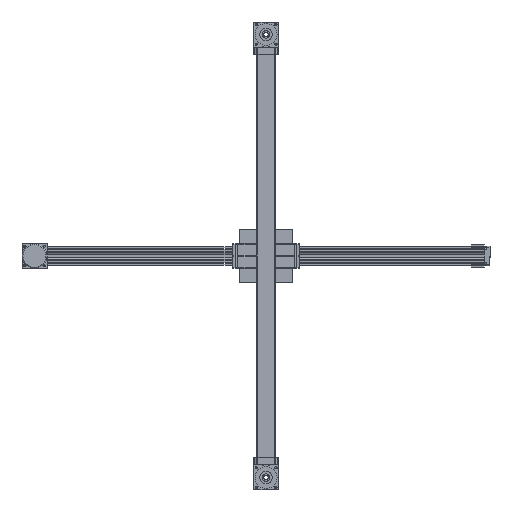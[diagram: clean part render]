
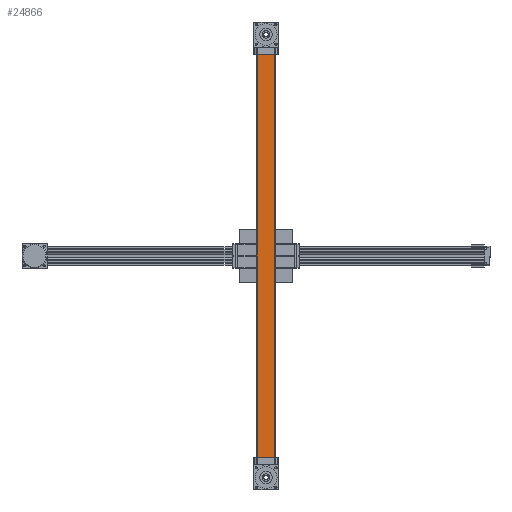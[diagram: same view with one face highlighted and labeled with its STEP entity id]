
A CAD part, left-side view. The second image highlights one B-rep face of the part: STEP entity #24866.
In plain terms, the highlighted planar face has unit normal (-1, 0, 0) as drawn and (0, 0, 1) by its records, which use the part's own axes.
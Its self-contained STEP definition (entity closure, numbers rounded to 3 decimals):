
#864 = VECTOR ( 'NONE', #28026, 1000. ) ;
#1057 = CARTESIAN_POINT ( 'NONE',  ( -430., 0., 68.5 ) ) ;
#1693 = VERTEX_POINT ( 'NONE', #24683 ) ;
#1764 = CARTESIAN_POINT ( 'NONE',  ( 430., 19., 68.5 ) ) ;
#2374 = DIRECTION ( 'NONE',  ( 0., 1., 0. ) ) ;
#2922 = LINE ( 'NONE', #17854, #5283 ) ;
#3812 = EDGE_CURVE ( 'NONE', #17452, #1693, #34093, .T. ) ;
#5283 = VECTOR ( 'NONE', #29699, 1000. ) ;
#5544 = CARTESIAN_POINT ( 'NONE',  ( 430., 0., 68.5 ) ) ;
#5788 = CARTESIAN_POINT ( 'NONE',  ( 430., -19., 68.5 ) ) ;
#8959 = ORIENTED_EDGE ( 'NONE', *, *, #3812, .F. ) ;
#10600 = EDGE_CURVE ( 'NONE', #26453, #12078, #38749, .T. ) ;
#10852 = VECTOR ( 'NONE', #2374, 1000. ) ;
#11277 = AXIS2_PLACEMENT_3D ( 'NONE', #5544, #29168, #25807 ) ;
#12078 = VERTEX_POINT ( 'NONE', #1764 ) ;
#12527 = ORIENTED_EDGE ( 'NONE', *, *, #10600, .T. ) ;
#14244 = EDGE_LOOP ( 'NONE', ( #8959, #17636, #12527, #32861 ) ) ;
#14932 = CARTESIAN_POINT ( 'NONE',  ( 430., 0., 68.5 ) ) ;
#16027 = CARTESIAN_POINT ( 'NONE',  ( 430., 19., 68.5 ) ) ;
#17452 = VERTEX_POINT ( 'NONE', #36129 ) ;
#17636 = ORIENTED_EDGE ( 'NONE', *, *, #32249, .F. ) ;
#17854 = CARTESIAN_POINT ( 'NONE',  ( 430., -19., 68.5 ) ) ;
#20479 = FACE_OUTER_BOUND ( 'NONE', #14244, .T. ) ;
#22157 = DIRECTION ( 'NONE',  ( -1., 0., 0. ) ) ;
#23036 = VECTOR ( 'NONE', #22157, 1000. ) ;
#24683 = CARTESIAN_POINT ( 'NONE',  ( -430., 19., 68.5 ) ) ;
#24866 = ADVANCED_FACE ( 'NONE', ( #20479 ), #32481, .T. ) ;
#25807 = DIRECTION ( 'NONE',  ( 1., 0., 0. ) ) ;
#26453 = VERTEX_POINT ( 'NONE', #5788 ) ;
#28026 = DIRECTION ( 'NONE',  ( 0., 1., 0. ) ) ;
#29168 = DIRECTION ( 'NONE',  ( 0., 0., 1. ) ) ;
#29699 = DIRECTION ( 'NONE',  ( -1., 0., 0. ) ) ;
#32249 = EDGE_CURVE ( 'NONE', #26453, #17452, #2922, .T. ) ;
#32481 = PLANE ( 'NONE',  #11277 ) ;
#32861 = ORIENTED_EDGE ( 'NONE', *, *, #34990, .T. ) ;
#34093 = LINE ( 'NONE', #1057, #864 ) ;
#34312 = LINE ( 'NONE', #16027, #23036 ) ;
#34990 = EDGE_CURVE ( 'NONE', #12078, #1693, #34312, .T. ) ;
#36129 = CARTESIAN_POINT ( 'NONE',  ( -430., -19., 68.5 ) ) ;
#38749 = LINE ( 'NONE', #14932, #10852 ) ;
